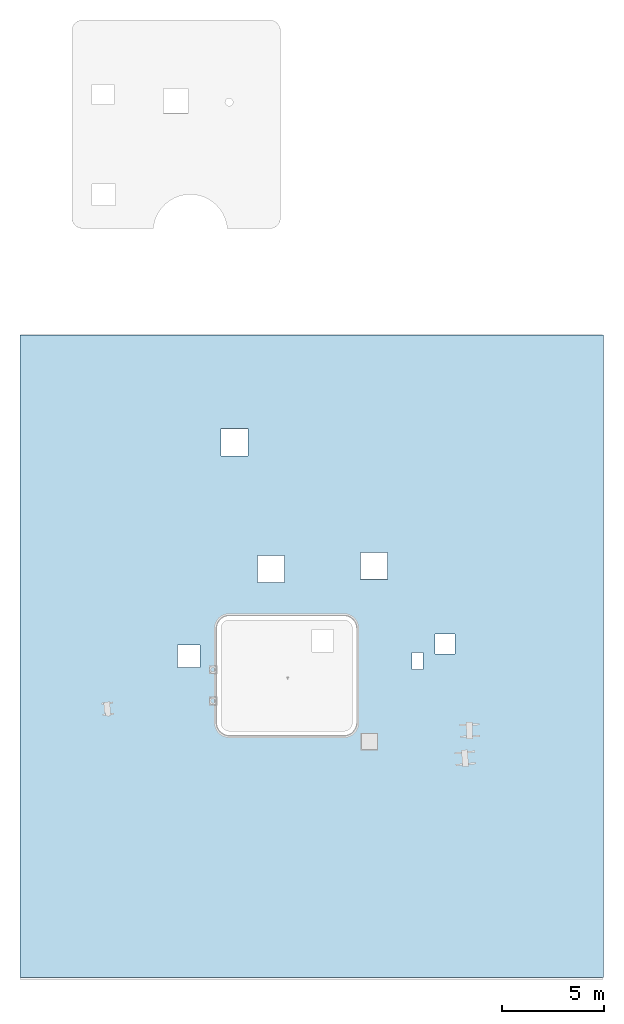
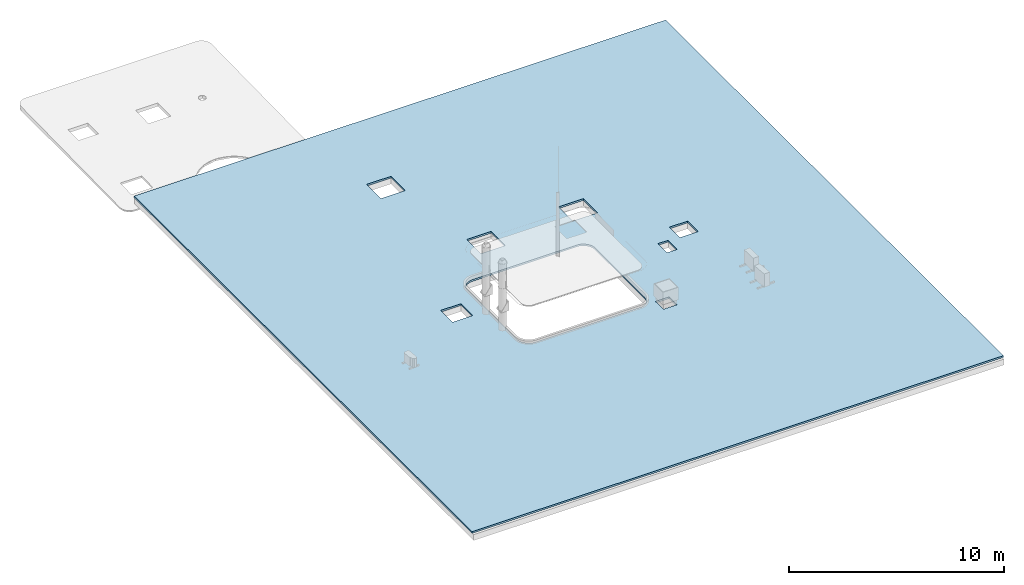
# One storey, part 1 of 2: 1 slab.
"""IFC2X3 building model written with IfcOpenShell, lengths in metres."""

from ifc_helpers import new_model, entity, si_unit, converted_unit, derived_unit, direction, frame, frame_2d, origin, place, context, subcontext, project, spatial, polyline, circle_curve, parameter, trimmed, segment, composite_curve, outline, extrude, material, layer, layer_set, layer_usage, type_object, element, save


model = new_model("IFC2X3")

# Units and contexts
model_context = context("Model", 3, precision=1e-05, world=origin(), true_north=direction((6.12303176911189e-17, 1.0)))
body_context = subcontext(model_context, "Body", "Model", "MODEL_VIEW")
ifc_project = project(units=[si_unit("LENGTHUNIT", "METRE"), si_unit("AREAUNIT", "SQUARE_METRE"), si_unit("VOLUMEUNIT", "CUBIC_METRE"), converted_unit("PLANEANGLEUNIT", "DEGREE", entity("IfcRatioMeasure", 0.0174532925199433), si_unit("PLANEANGLEUNIT", "RADIAN"), dimensions=[0, 0, 0, 0, 0, 0, 0]), si_unit("MASSUNIT", "GRAM", prefix="KILO"), derived_unit("MASSDENSITYUNIT", [(si_unit("MASSUNIT", "GRAM", prefix="KILO"), 1), (si_unit("LENGTHUNIT", "METRE"), -3)]), derived_unit("MOMENTOFINERTIAUNIT", [(si_unit("LENGTHUNIT", "METRE"), 4)]), si_unit("TIMEUNIT", "SECOND"), si_unit("FREQUENCYUNIT", "HERTZ"), si_unit("THERMODYNAMICTEMPERATUREUNIT", "DEGREE_CELSIUS"), derived_unit("THERMALTRANSMITTANCEUNIT", [(si_unit("MASSUNIT", "GRAM", prefix="KILO"), 1), (si_unit("THERMODYNAMICTEMPERATUREUNIT", "KELVIN"), -1), (si_unit("TIMEUNIT", "SECOND"), -3)]), derived_unit("VOLUMETRICFLOWRATEUNIT", [(si_unit("LENGTHUNIT", "METRE"), 3), (si_unit("TIMEUNIT", "SECOND"), -1)]), si_unit("ELECTRICCURRENTUNIT", "AMPERE"), si_unit("ELECTRICVOLTAGEUNIT", "VOLT"), si_unit("POWERUNIT", "WATT"), si_unit("FORCEUNIT", "NEWTON", prefix="KILO"), si_unit("ILLUMINANCEUNIT", "LUX"), si_unit("LUMINOUSFLUXUNIT", "LUMEN"), si_unit("LUMINOUSINTENSITYUNIT", "CANDELA"), derived_unit("USERDEFINED", [(si_unit("MASSUNIT", "GRAM", prefix="KILO"), -1), (si_unit("LENGTHUNIT", "METRE"), -2), (si_unit("TIMEUNIT", "SECOND"), 3), (si_unit("LUMINOUSFLUXUNIT", "LUMEN"), 1)]), derived_unit("LINEARVELOCITYUNIT", [(si_unit("LENGTHUNIT", "METRE"), 1), (si_unit("TIMEUNIT", "SECOND"), -1)]), si_unit("PRESSUREUNIT", "PASCAL"), derived_unit("USERDEFINED", [(si_unit("LENGTHUNIT", "METRE"), -2), (si_unit("MASSUNIT", "GRAM", prefix="KILO"), 1), (si_unit("TIMEUNIT", "SECOND"), -2)]), derived_unit("LINEARFORCEUNIT", [(si_unit("MASSUNIT", "GRAM", prefix="KILO"), 1), (si_unit("LENGTHUNIT", "METRE"), 1), (si_unit("TIMEUNIT", "SECOND"), -2), (si_unit("LENGTHUNIT", "METRE"), -1)]), derived_unit("PLANARFORCEUNIT", [(si_unit("MASSUNIT", "GRAM", prefix="KILO"), 1), (si_unit("LENGTHUNIT", "METRE"), 1), (si_unit("TIMEUNIT", "SECOND"), -2), (si_unit("LENGTHUNIT", "METRE"), -2)])], contexts=[model_context])

# Site, building, storey
site_placement = place(None, origin())
site = spatial("IfcSite", under=ifc_project, at=site_placement, Name="Default", CompositionType="ELEMENT")
building_placement = place(site_placement, origin())
building = spatial("IfcBuilding", under=site, at=building_placement, CompositionType="ELEMENT")
storey_placement = place(building_placement, frame((0.0, 0.0, 10.7533082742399)))
storey = spatial("IfcBuildingStorey", under=building, at=storey_placement, Name="Niveau 3", CompositionType="ELEMENT", Elevation=10.7533082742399)

# Slab
ifc_material = material(Name="@_Toit Gravillons")
ifc_layer = layer(ifc_material, 0.1)
ifc_layer_set = layer_set([ifc_layer], Name="Sol:gravier terrasse 100mm")
ifc_layer_usage = layer_usage(ifc_layer_set, "AXIS3", "POSITIVE", 0.0)
slab_type = type_object("IfcSlabType", Name="Sol:gravier terrasse 100mm", PredefinedType="FLOOR", material=ifc_layer_set)
slab_placement = place(storey_placement, origin())
element("IfcSlab", 1, at=slab_placement, inside=storey, type_object=slab_type, material=ifc_layer_usage, Name="Sol:gravier terrasse 100mm", ObjectType="Sol:gravier terrasse 100mm", PredefinedType="FLOOR", context=body_context, shape_type="SweptSolid", body=[
    extrude(outline(polyline([(-14.2552429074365, -20.9399999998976), (14.2647570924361, -20.9399999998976), (14.2647570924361, 10.4699999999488), (14.2212145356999, 10.4699999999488), (-14.2402429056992, 10.4699999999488), (-14.2552429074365, 10.4699999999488), (-14.2552429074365, -20.9399999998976)]), holes=[polyline([(-4.43476580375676, 4.55509216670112), (-4.43476580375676, 5.87809216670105), (-3.11176580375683, 5.87809216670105), (-3.11176580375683, 4.55509216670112), (-4.43476580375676, 4.55509216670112)]), polyline([(-1.31633345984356, -1.63500825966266), (-2.63933345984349, -1.63500825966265), (-2.63933345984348, -0.312008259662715), (-1.31633345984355, -0.312008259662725), (-1.31633345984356, -1.63500825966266)]), polyline([(3.71794747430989, -1.48275273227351), (2.39494747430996, -1.4827527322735), (2.39494747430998, -0.159752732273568), (3.71794747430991, -0.159752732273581), (3.71794747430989, -1.48275273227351)]), polyline([(-5.4603475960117, -5.78482520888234), (-6.5603475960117, -5.78482520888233), (-6.56034759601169, -4.68482520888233), (-5.46034759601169, -4.68482520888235), (-5.4603475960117, -5.78482520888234)]), polyline([(5.44708230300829, -5.04993808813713), (5.44708230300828, -5.89993808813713), (4.89708230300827, -5.89993808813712), (4.89708230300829, -5.04993808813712), (5.44708230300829, -5.04993808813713)]), polyline([(6.03438108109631, -4.15849999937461), (7.00738108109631, -4.15849999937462), (7.00738108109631, -5.13149999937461), (6.0343810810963, -5.1314999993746), (6.03438108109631, -4.15849999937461)]), composite_curve([segment(polyline([(-4.642190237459, -8.52439103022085), (-4.642190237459, -3.84901437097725)]), True, "CONTINUOUS"), segment(trimmed(circle_curve(frame_2d((-4.01327702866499, -3.89251991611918), x_axis=(1.0, 0.0)), 0.630416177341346), [parameter(95.4942596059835)], [parameter(176.042825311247)], True, "PARAMETER"), False, "CONTINUOUS"), segment(polyline([(-4.07363687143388, -3.26499999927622), (1.62550639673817, -3.26499999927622)]), True, "CONTINUOUS"), segment(trimmed(circle_curve(frame_2d((1.56514655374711, -3.89251991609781), x_axis=(1.0, 0.0)), 0.630416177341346), [parameter(3.20464287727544)], [parameter(84.505740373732)], True, "PARAMETER"), False, "CONTINUOUS"), segment(polyline([(2.19457690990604, -3.85727813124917), (2.19457690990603, -8.52112726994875)]), True, "CONTINUOUS"), segment(trimmed(circle_curve(frame_2d((1.56514655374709, -8.48588548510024), x_axis=(1.0, 0.0)), 0.630416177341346), [parameter(278.108004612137)], [parameter(356.795357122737)], True, "PARAMETER"), False, "CONTINUOUS"), segment(polyline([(1.65406016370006, -9.10999999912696), (-4.05376758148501, -9.10999999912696)]), True, "CONTINUOUS"), segment(trimmed(circle_curve(frame_2d((-4.013277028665, -8.48088548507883), x_axis=(1.0, 0.0)), 0.630416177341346), [parameter(183.957174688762)], [parameter(266.317455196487)], True, "PARAMETER"), False, "CONTINUOUS")], self_intersect=False), polyline([(2.45516654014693, -9.77882013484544), (2.45516654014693, -9.04882013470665), (3.18516654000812, -9.04882013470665), (3.18516654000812, -9.77882013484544), (2.45516654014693, -9.77882013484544)])]), frame((-11.3637462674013, 0.100884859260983, 0.0)), (0.0, 0.0, 1.0), 0.0999999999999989),
])

save(model, "model.ifc")
